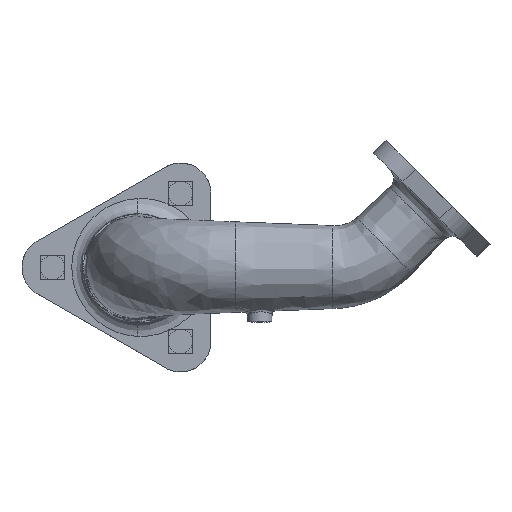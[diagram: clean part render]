
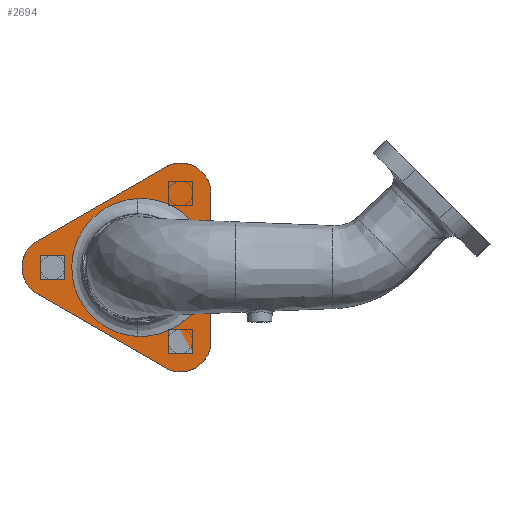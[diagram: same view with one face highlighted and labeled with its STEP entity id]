
A CAD part, top view. The second image highlights one B-rep face of the part: STEP entity #2694.
In plain terms, the highlighted free-form (B-spline) face has degree [1, 1] with [2, 2] control points.
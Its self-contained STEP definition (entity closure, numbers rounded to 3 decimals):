
#1433=ORIENTED_EDGE('',*,*,#1920,.F.);
#1434=ORIENTED_EDGE('',*,*,#1921,.F.);
#1435=ORIENTED_EDGE('',*,*,#1922,.F.);
#1436=ORIENTED_EDGE('',*,*,#1927,.T.);
#1437=ORIENTED_EDGE('',*,*,#1930,.T.);
#1438=ORIENTED_EDGE('',*,*,#1931,.F.);
#1439=ORIENTED_EDGE('',*,*,#1932,.F.);
#1440=ORIENTED_EDGE('',*,*,#1933,.F.);
#1441=ORIENTED_EDGE('',*,*,#1934,.F.);
#1442=ORIENTED_EDGE('',*,*,#1935,.F.);
#1443=ORIENTED_EDGE('',*,*,#1936,.F.);
#1920=EDGE_CURVE('',#2176,#2176,$,.T.);
#1921=EDGE_CURVE('',#2177,#2177,$,.T.);
#1922=EDGE_CURVE('',#2178,#2178,$,.T.);
#1927=EDGE_CURVE('',#2182,#2181,#3794,.F.);
#1930=EDGE_CURVE('',#2181,#2182,#3797,.F.);
#1931=EDGE_CURVE('',#2183,#2184,#3798,.T.);
#1932=EDGE_CURVE('',#2185,#2183,#3799,.T.);
#1933=EDGE_CURVE('',#2186,#2185,#3800,.T.);
#1934=EDGE_CURVE('',#2187,#2186,#3801,.T.);
#1935=EDGE_CURVE('',#2188,#2187,#3802,.T.);
#1936=EDGE_CURVE('',#2184,#2188,#3803,.T.);
#2176=VERTEX_POINT('',#5507);
#2177=VERTEX_POINT('',#5512);
#2178=VERTEX_POINT('',#5517);
#2181=VERTEX_POINT('',#6888);
#2182=VERTEX_POINT('',#6907);
#2183=VERTEX_POINT('',#7996);
#2184=VERTEX_POINT('',#7997);
#2185=VERTEX_POINT('',#8008);
#2186=VERTEX_POINT('',#8011);
#2187=VERTEX_POINT('',#8022);
#2188=VERTEX_POINT('',#8025);
#2336=EDGE_LOOP('',(#1433));
#2337=EDGE_LOOP('',(#1434));
#2338=EDGE_LOOP('',(#1435));
#2339=EDGE_LOOP('',(#1436,#1437));
#2340=EDGE_LOOP('',(#1438,#1439,#1440,#1441,#1442,#1443));
#2464=FACE_BOUND('',#2336,.T.);
#2465=FACE_BOUND('',#2337,.T.);
#2466=FACE_BOUND('',#2338,.T.);
#2467=FACE_BOUND('',#2339,.T.);
#2468=FACE_BOUND('',#2340,.T.);
#2589=B_SPLINE_SURFACE_WITH_KNOTS('',1,1,((#7990,#7991),(#7992,#7993)),
 .PLANE_SURF.,.F.,.F.,.F.,(2,2),(2,2),(-0.076,0.122),(-0.11,
0.11),.PIECEWISE_BEZIER_KNOTS.);
#2694=ADVANCED_FACE('',(#2464,#2465,#2466,#2467,#2468),#2589,.F.);
#3794=B_SPLINE_CURVE_WITH_KNOTS('',3,(#6889,#6890,#6891,#6892,#6893,#6894,
#6895,#6896,#6897,#6898,#6899,#6900,#6901,#6902,#6903,#6904,#6905,#6906),
 .UNSPECIFIED.,.F.,.F.,(4,1,1,1,1,1,1,1,1,1,1,1,1,1,1,4),(0.,0.125,0.188,
0.25,0.313,0.375,0.438,0.5,0.563,0.625,0.688,0.75,0.813,0.875,0.938,
1.),.UNSPECIFIED.);
#3797=B_SPLINE_CURVE_WITH_KNOTS('',3,(#7974,#7975,#7976,#7977,#7978,#7979,
#7980,#7981,#7982,#7983,#7984,#7985,#7986,#7987,#7988,#7989),
 .UNSPECIFIED.,.F.,.F.,(4,1,1,1,1,1,1,1,1,1,1,1,1,4),(0.,0.063,0.125,0.188,
0.25,0.313,0.375,0.438,0.5,0.625,0.688,0.75,0.875,1.),.UNSPECIFIED.);
#3798=B_SPLINE_CURVE_WITH_KNOTS('',1,(#7994,#7995),.UNSPECIFIED.,.F.,.F.,
(2,2),(0.,0.154),.UNSPECIFIED.);
#3799=B_SPLINE_CURVE_WITH_KNOTS('',9,(#7998,#7999,#8000,#8001,#8002,#8003,
#8004,#8005,#8006,#8007),.UNSPECIFIED.,.F.,.F.,(10,10),(0.1,0.166),
 .UNSPECIFIED.);
#3800=B_SPLINE_CURVE_WITH_KNOTS('',1,(#8009,#8010),.UNSPECIFIED.,.F.,.F.,
(2,2),(0.,0.154),.UNSPECIFIED.);
#3801=B_SPLINE_CURVE_WITH_KNOTS('',9,(#8012,#8013,#8014,#8015,#8016,#8017,
#8018,#8019,#8020,#8021),.UNSPECIFIED.,.F.,.F.,(10,10),(0.033,0.1),
 .UNSPECIFIED.);
#3802=B_SPLINE_CURVE_WITH_KNOTS('',1,(#8023,#8024),.UNSPECIFIED.,.F.,.F.,
(2,2),(0.,0.154),.UNSPECIFIED.);
#3803=B_SPLINE_CURVE_WITH_KNOTS('',9,(#8026,#8027,#8028,#8029,#8030,#8031,
#8032,#8033,#8034,#8035),.UNSPECIFIED.,.F.,.F.,(10,10),(0.166,0.233),
 .UNSPECIFIED.);
#5507=CARTESIAN_POINT('',(31.75,-76.99,15.875));
#5512=CARTESIAN_POINT('',(-77.87,6.295,15.875));
#5517=CARTESIAN_POINT('',(57.15,76.99,15.875));
#6888=CARTESIAN_POINT('',(0.,71.802,15.875));
#6889=CARTESIAN_POINT('',(0.,71.802,15.875));
#6890=CARTESIAN_POINT('',(-8.501,71.439,15.875));
#6891=CARTESIAN_POINT('',(-21.341,68.557,15.875));
#6892=CARTESIAN_POINT('',(-36.545,60.386,15.875));
#6893=CARTESIAN_POINT('',(-46.569,52.414,15.875));
#6894=CARTESIAN_POINT('',(-54.934,42.923,15.875));
#6895=CARTESIAN_POINT('',(-61.49,32.208,15.875));
#6896=CARTESIAN_POINT('',(-66.153,20.415,15.875));
#6897=CARTESIAN_POINT('',(-68.768,7.579,15.875));
#6898=CARTESIAN_POINT('',(-68.993,-6.259,15.875));
#6899=CARTESIAN_POINT('',(-66.374,-20.553,15.875));
#6900=CARTESIAN_POINT('',(-60.693,-34.447,15.875));
#6901=CARTESIAN_POINT('',(-52.068,-47.038,15.875));
#6902=CARTESIAN_POINT('',(-40.949,-57.535,15.875));
#6903=CARTESIAN_POINT('',(-28.034,-65.37,15.875));
#6904=CARTESIAN_POINT('',(-14.138,-70.273,15.875));
#6905=CARTESIAN_POINT('',(-4.7,-71.6,15.875));
#6906=CARTESIAN_POINT('',(0.,-71.802,15.875));
#6907=CARTESIAN_POINT('',(0.,-71.802,15.875));
#7974=CARTESIAN_POINT('',(0.,-71.802,15.875));
#7975=CARTESIAN_POINT('',(4.825,-72.01,15.875));
#7976=CARTESIAN_POINT('',(14.448,-71.455,15.875));
#7977=CARTESIAN_POINT('',(28.577,-67.727,15.875));
#7978=CARTESIAN_POINT('',(41.919,-61.072,15.875));
#7979=CARTESIAN_POINT('',(53.794,-51.627,15.875));
#7980=CARTESIAN_POINT('',(63.502,-39.8,15.875));
#7981=CARTESIAN_POINT('',(70.503,-26.201,15.875));
#7982=CARTESIAN_POINT('',(74.462,-11.588,15.875));
#7983=CARTESIAN_POINT('',(75.594,8.251,15.875));
#7984=CARTESIAN_POINT('',(70.689,27.38,15.875));
#7985=CARTESIAN_POINT('',(60.579,43.832,15.875));
#7986=CARTESIAN_POINT('',(47.51,57.85,15.875));
#7987=CARTESIAN_POINT('',(26.827,69.708,15.875));
#7988=CARTESIAN_POINT('',(8.732,72.175,15.875));
#7989=CARTESIAN_POINT('',(0.,71.802,15.875));
#7990=CARTESIAN_POINT('',(76.2,-110.121,15.875));
#7991=CARTESIAN_POINT('',(76.2,110.254,15.875));
#7992=CARTESIAN_POINT('',(-122.06,-110.121,15.875));
#7993=CARTESIAN_POINT('',(-122.06,110.254,15.875));
#7994=CARTESIAN_POINT('',(28.575,-104.486,15.875));
#7995=CARTESIAN_POINT('',(-104.775,-27.496,15.875));
#7996=CARTESIAN_POINT('',(28.575,-104.486,15.875));
#7997=CARTESIAN_POINT('',(-104.775,-27.496,15.875));
#7998=CARTESIAN_POINT('',(76.2,-76.99,15.875));
#7999=CARTESIAN_POINT('',(76.2,-84.378,15.875));
#8000=CARTESIAN_POINT('',(74.266,-91.767,15.875));
#8001=CARTESIAN_POINT('',(70.397,-98.576,15.875));
#8002=CARTESIAN_POINT('',(64.796,-104.229,15.875));
#8003=CARTESIAN_POINT('',(57.867,-108.23,15.875));
#8004=CARTESIAN_POINT('',(50.171,-110.254,15.875));
#8005=CARTESIAN_POINT('',(42.34,-110.199,15.875));
#8006=CARTESIAN_POINT('',(34.974,-108.18,15.875));
#8007=CARTESIAN_POINT('',(28.575,-104.486,15.875));
#8008=CARTESIAN_POINT('',(76.2,-76.99,15.875));
#8009=CARTESIAN_POINT('',(76.2,76.99,15.875));
#8010=CARTESIAN_POINT('',(76.2,-76.99,15.875));
#8011=CARTESIAN_POINT('',(76.2,76.99,15.875));
#8012=CARTESIAN_POINT('',(28.575,104.486,15.875));
#8013=CARTESIAN_POINT('',(34.974,108.18,15.875));
#8014=CARTESIAN_POINT('',(42.34,110.199,15.875));
#8015=CARTESIAN_POINT('',(50.171,110.254,15.875));
#8016=CARTESIAN_POINT('',(57.867,108.23,15.875));
#8017=CARTESIAN_POINT('',(64.796,104.229,15.875));
#8018=CARTESIAN_POINT('',(70.397,98.577,15.875));
#8019=CARTESIAN_POINT('',(74.266,91.767,15.875));
#8020=CARTESIAN_POINT('',(76.2,84.378,15.875));
#8021=CARTESIAN_POINT('',(76.2,76.99,15.875));
#8022=CARTESIAN_POINT('',(28.575,104.486,15.875));
#8023=CARTESIAN_POINT('',(-104.775,27.496,15.875));
#8024=CARTESIAN_POINT('',(28.575,104.486,15.875));
#8025=CARTESIAN_POINT('',(-104.775,27.496,15.875));
#8026=CARTESIAN_POINT('',(-104.775,-27.496,15.875));
#8027=CARTESIAN_POINT('',(-111.174,-23.802,15.875));
#8028=CARTESIAN_POINT('',(-116.605,-18.433,15.875));
#8029=CARTESIAN_POINT('',(-120.568,-11.677,15.875));
#8030=CARTESIAN_POINT('',(-122.663,-4.001,15.875));
#8031=CARTESIAN_POINT('',(-122.663,4.001,15.875));
#8032=CARTESIAN_POINT('',(-120.568,11.677,15.875));
#8033=CARTESIAN_POINT('',(-116.605,18.433,15.875));
#8034=CARTESIAN_POINT('',(-111.174,23.802,15.875));
#8035=CARTESIAN_POINT('',(-104.775,27.496,15.875));
